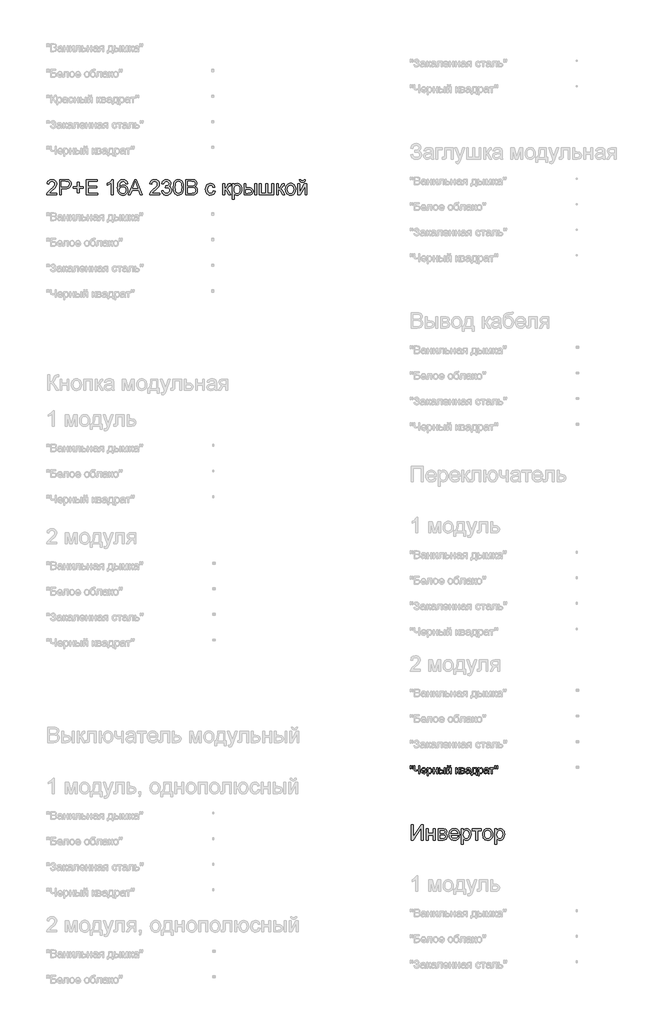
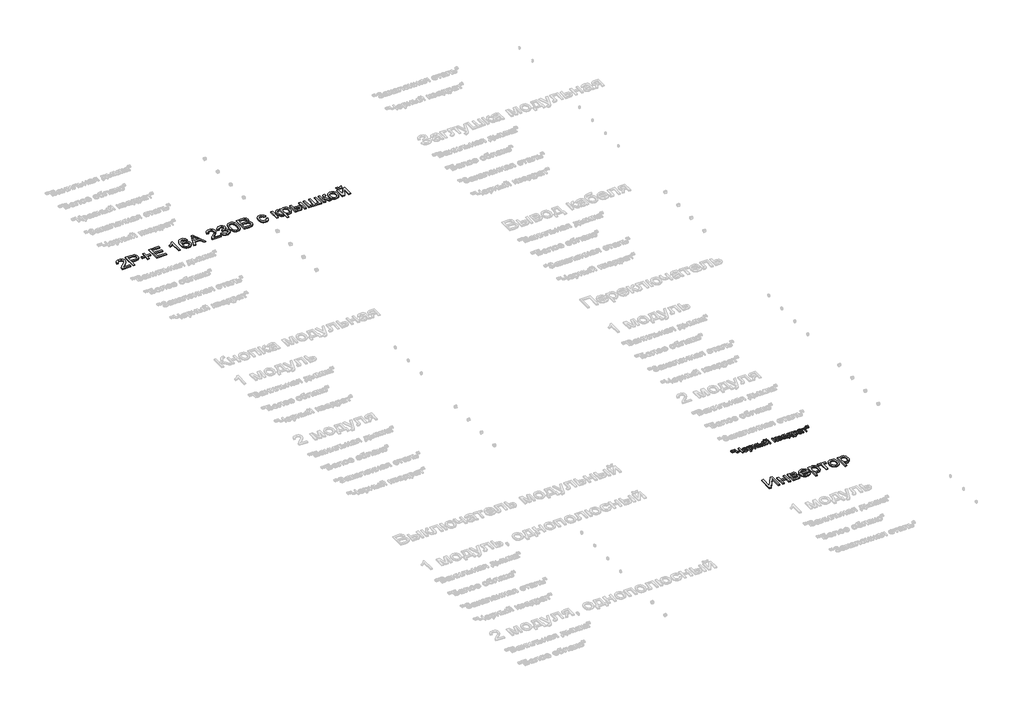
# One storey, part 50 of 168: 3 proxies.
"""IFC4 building model written with IfcOpenShell, lengths in millimetres."""

from ifc_helpers import new_model, si_unit, origin, origin_with_axes, place, context, project, spatial, polyline, outline, extrude, element, save

model = new_model("IFC4")

# Units and contexts
model_context = context("Model", 3, world=origin())
ifc_project = project(units=[si_unit("LENGTHUNIT", "METRE", prefix="MILLI")], contexts=[model_context])

# Site, building, storey
site = spatial("IfcSite", under=ifc_project)
building = spatial("IfcBuilding", under=site)
storey = spatial("IfcBuildingStorey", under=building, Name="Этаж 01", Elevation=0.0)

# Proxies
placement = place(None, origin())
element("IfcBuildingElementProxy", 1, Name="300 мм Arial 2", ObjectType="300 мм Arial 2", at=placement, inside=storey, context=model_context, shape_type="SweptSolid", body=[
    extrude(outline(polyline([(42178.0323041, -34929.1911814), (42178.0323041, -34966.8622977), (41980.2589435, -34966.8622977), (41984.3056455, -34940.8898289), (41993.5946658, -34920.5919398), (42007.1879056, -34900.901056), (42026.8511982, -34880.2904672), (42054.3503773, -34857.2334632), (42095.0013378, -34821.1258453), (42119.3919141, -34794.4727948), (42131.5872022, -34772.8413335), (42135.6522983, -34751.7984834), (42131.8171285, -34732.9353341), (42120.3116191, -34717.254364), (42102.6256922, -34706.6869537), (42080.2492698, -34703.1644836), (42056.7508074, -34706.6041802), (42038.4946633, -34716.9232702), (42026.7132424, -34733.3124131), (42022.6389493, -34754.9622685), (41984.967833, -34750.253379), (41994.1005036, -34713.8146674), (42002.6468622, -34699.27873), (42013.8465697, -34687.198405), (42027.4421086, -34677.702451), (42043.1759617, -34670.9196267), (42081.0586102, -34665.4933673), (42101.2484339, -34667.0016835), (42119.2171701, -34671.526632), (42134.9648188, -34679.0682129), (42148.4913799, -34689.6264262), (42159.3553951, -34702.4195226), (42167.1154059, -34716.6657528), (42171.7714124, -34732.365117), (42173.3234146, -34749.517615), (42171.6495515, -34767.5346357), (42166.6279623, -34785.2389567), (42157.7160209, -34803.2467804), (42144.3711016, -34822.174309), (42123.0983252, -34844.7714606), (42090.4028129, -34873.788153), (42047.0663138, -34910.0245295), (42030.0701657, -34929.1911814), (42178.0323041, -34929.1911814)])), origin_with_axes(), (0.0, 0.0, 1.0), 20.0),
    extrude(outline(polyline([(42229.830089, -34966.8622977), (42229.830089, -34665.4933673), (42341.5190628, -34665.4933673), (42386.547819, -34668.3628468), (42406.6249789, -34673.7247269), (42423.1520775, -34682.4527273), (42436.4602087, -34694.942321), (42446.8804662, -34711.5889813), (42453.6127067, -34731.2246828), (42455.8567869, -34752.6814001), (42454.3415729, -34771.181266), (42449.795931, -34788.2004068), (42442.2198612, -34803.7388225), (42431.6133634, -34817.7965133), (42417.0521342, -34829.4491755), (42397.61187, -34837.7725056), (42373.2925708, -34842.7665037), (42344.0942367, -34844.4311697), (42267.5012053, -34844.4311697), (42267.5012053, -34966.8622977), (42229.830089, -34966.8622977)]), holes=[polyline([(42267.5012053, -34806.7600534), (42346.3015287, -34806.7600534), (42379.7052139, -34803.3019627), (42401.7781336, -34792.9276904), (42414.0837863, -34776.2810301), (42418.1856706, -34754.0057753), (42415.7668464, -34737.0832035), (42408.5103741, -34722.8093821), (42397.3175644, -34712.0672279), (42383.0897282, -34705.7396576), (42345.4186119, -34703.1644836), (42267.5012053, -34703.1644836), (42267.5012053, -34806.7600534)])]), origin_with_axes(), (0.0, 0.0, 1.0), 20.0),
    extrude(outline(polyline([(42578.2879149, -34919.7734024), (42578.2879149, -34839.7222802), (42498.2367927, -34839.7222802), (42498.2367927, -34802.0511639), (42578.2879149, -34802.0511639), (42578.2879149, -34722.0000417), (42615.9590312, -34722.0000417), (42615.9590312, -34802.0511639), (42696.0101533, -34802.0511639), (42696.0101533, -34839.7222802), (42615.9590312, -34839.7222802), (42615.9590312, -34919.7734024), (42578.2879149, -34919.7734024)])), origin_with_axes(), (0.0, 0.0, 1.0), 20.0),
    extrude(outline(polyline([(42752.5168278, -34966.8622977), (42752.5168278, -34665.4933673), (42969.1257465, -34665.4933673), (42969.1257465, -34703.1644836), (42790.1879441, -34703.1644836), (42790.1879441, -34792.6333848), (42959.7079675, -34792.6333848), (42959.7079675, -34830.3045011), (42790.1879441, -34830.3045011), (42790.1879441, -34929.1911814), (42973.8346361, -34929.1911814), (42973.8346361, -34966.8622977), (42752.5168278, -34966.8622977)])), origin_with_axes(), (0.0, 0.0, 1.0), 20.0),
    extrude(outline(polyline([(43275.2035665, -34966.8622977), (43237.5324502, -34966.8622977), (43237.5324502, -34732.006432), (43201.8478967, -34757.4270779), (43162.1902176, -34776.446577), (43162.1902176, -34740.8355999), (43191.7771271, -34724.7407626), (43217.4093051, -34705.5925048), (43237.6152237, -34685.2302363), (43250.9233548, -34665.4933673), (43275.2035665, -34665.4933673), (43275.2035665, -34966.8622977)])), origin_with_axes(), (0.0, 0.0, 1.0), 20.0),
    extrude(outline(polyline([(43557.7369388, -34745.5444894), (43520.0658225, -34750.253379), (43513.9957696, -34731.5833677), (43505.7920011, -34718.8362566), (43488.7038824, -34707.0824268), (43468.0473084, -34703.1644836), (43450.5361254, -34705.445352), (43434.055012, -34712.2879571), (43419.9007523, -34726.6997342), (43408.3400606, -34746.5377708), (43400.5317652, -34774.59797), (43397.6346945, -34813.6762349), (43412.7454475, -34796.0454903), (43430.8544387, -34783.6202759), (43450.9499927, -34776.253439), (43472.0204339, -34773.7978267), (43490.1202281, -34775.4762883), (43506.8220707, -34780.5116731), (43522.1259617, -34788.9039811), (43536.0319011, -34800.6532123), (43547.5879943, -34815.0603909), (43555.8423465, -34831.4265412), (43560.7949579, -34849.7516631), (43562.4458284, -34870.0357566), (43559.3372255, -34897.0107039), (43550.0114169, -34922.0174825), (43535.2409548, -34943.2258795), (43515.7983914, -34958.805682), (43492.5666434, -34968.379811), (43466.4286276, -34971.5711873), (43443.9717311, -34969.4558658), (43423.6899368, -34963.1099014), (43405.5832449, -34952.533294), (43389.6516552, -34937.7260437), (43376.6631215, -34918.0627511), (43367.3855975, -34892.9180167), (43361.819083, -34862.2918406), (43359.9635782, -34826.1842228), (43362.0237174, -34785.7034077), (43368.2041349, -34751.1546899), (43378.5048308, -34722.5380692), (43392.925805, -34699.8535456), (43408.5561913, -34684.8209676), (43426.678978, -34674.0834119), (43447.2941653, -34667.6408784), (43470.4017532, -34665.4933673), (43503.4559504, -34670.8092621), (43529.92506, -34686.7569466), (43548.4663125, -34712.085622), (43557.7369388, -34745.5444894)]), holes=[polyline([(43397.6346945, -34869.4471454), (43399.8143953, -34886.1397909), (43406.3534978, -34902.0782784), (43416.5070409, -34915.7818827), (43429.5300635, -34925.7698789), (43445.2478217, -34931.8675229), (43463.4855717, -34933.900071), (43488.3451975, -34929.6878221), (43507.8889285, -34917.0510756), (43520.5532662, -34897.1854478), (43524.7747121, -34871.2865554), (43520.6084485, -34846.4269296), (43508.1096577, -34827.4718098), (43488.2348329, -34815.4696597), (43461.9404673, -34811.468943), (43437.1176297, -34815.4696597), (43416.3598881, -34827.4718098), (43402.3159929, -34845.9670771), (43397.6346945, -34869.4471454)])]), origin_with_axes(), (0.0, 0.0, 1.0), 20.0),
    extrude(outline(polyline([(43574.4387814, -34966.8622977), (43694.7361938, -34665.4933673), (43726.8155038, -34665.4933673), (43847.1129162, -34966.8622977), (43807.3080844, -34966.8622977), (43772.8007532, -34872.684507), (43648.677368, -34872.684507), (43614.2436133, -34966.8622977), (43574.4387814, -34966.8622977)]), holes=[polyline([(43662.509731, -34835.0133907), (43759.0419666, -34835.0133907), (43731.8922753, -34760.9219568), (43710.7758488, -34703.1644836), (43692.0138671, -34754.4472337), (43662.509731, -34835.0133907)])]), origin_with_axes(), (0.0, 0.0, 1.0), 20.0),
    extrude(outline(polyline([(44184.0192474, -34929.1911814), (44184.0192474, -34966.8622977), (43986.2458868, -34966.8622977), (43990.2925888, -34940.8898289), (43999.5816091, -34920.5919398), (44013.1748489, -34900.901056), (44032.8381415, -34880.2904672), (44060.3373206, -34857.2334632), (44100.9882811, -34821.1258453), (44125.3788574, -34794.4727948), (44137.5741455, -34772.8413335), (44141.6392416, -34751.7984834), (44137.8040718, -34732.9353341), (44126.2985624, -34717.254364), (44108.6126355, -34706.6869537), (44086.2362131, -34703.1644836), (44062.7377507, -34706.6041802), (44044.4816066, -34716.9232702), (44032.7001857, -34733.3124131), (44028.6258926, -34754.9622685), (43990.9547763, -34750.253379), (44000.0874469, -34713.8146674), (44008.6338055, -34699.27873), (44019.833513, -34687.198405), (44033.4290519, -34677.702451), (44049.162905, -34670.9196267), (44087.0455535, -34665.4933673), (44107.2353772, -34667.0016835), (44125.2041134, -34671.526632), (44140.9517621, -34679.0682129), (44154.4783232, -34689.6264262), (44165.3423384, -34702.4195226), (44173.1023492, -34716.6657528), (44177.7583557, -34732.365117), (44179.3103579, -34749.517615), (44177.6364948, -34767.5346357), (44172.6149056, -34785.2389567), (44163.7029642, -34803.2467804), (44150.3580449, -34822.174309), (44129.0852685, -34844.7714606), (44096.3897562, -34873.788153), (44053.0532571, -34910.0245295), (44036.057109, -34929.1911814), (44184.0192474, -34929.1911814)])), origin_with_axes(), (0.0, 0.0, 1.0), 20.0),
    extrude(outline(polyline([(44221.6903637, -34886.8111756), (44259.36148, -34882.102286), (44267.7951748, -34905.7754924), (44280.1468128, -34921.7599651), (44297.0233993, -34930.8650445), (44319.0319396, -34933.900071), (44344.8572557, -34929.7246103), (44364.7964598, -34917.1982284), (44377.543571, -34898.509823), (44381.792608, -34875.8482921), (44377.5803592, -34854.3363925), (44364.9436126, -34836.8895888), (44345.8137489, -34825.3288971), (44322.1221484, -34821.4753332), (44295.7082211, -34825.5956116), (44299.9020759, -34787.9244953), (44305.9353406, -34788.3659537), (44328.504901, -34785.662021), (44348.6832285, -34777.550223), (44362.9202617, -34763.8282246), (44367.6659394, -34744.2936907), (44364.2262427, -34728.0241094), (44353.9071528, -34714.8263428), (44338.1618034, -34706.0799484), (44318.4433284, -34703.1644836), (44298.6880653, -34706.1075396), (44282.5380457, -34714.9367074), (44270.7474278, -34729.6519872), (44264.0703696, -34750.253379), (44226.3992533, -34745.5444894), (44237.4908954, -34711.71774), (44257.2277645, -34686.462641), (44284.2303029, -34670.7356857), (44317.1189533, -34665.4933673), (44340.8013567, -34668.0777383), (44362.5523797, -34675.8308513), (44380.8912971, -34688.0629277), (44394.3373841, -34704.0841886), (44402.5871378, -34722.5426677), (44405.3370557, -34742.0863987), (44402.7250935, -34760.2965574), (44394.889207, -34776.814459), (44381.9397608, -34790.8859453), (44363.9871195, -34801.7568583), (44387.5683553, -34811.285002), (44405.0427501, -34827.508598), (44415.8584808, -34849.5447295), (44419.4637243, -34876.5104797), (44417.6611025, -34895.6219494), (44412.2532372, -34913.2251028), (44403.2401283, -34929.3199401), (44390.6217759, -34943.9064612), (44375.248907, -34956.0097789), (44357.9722488, -34964.6550058), (44338.7918013, -34969.8421419), (44317.7075645, -34971.5711873), (44298.6512771, -34970.0950608), (44281.2872469, -34965.6666812), (44265.6154739, -34958.2860487), (44251.6359581, -34947.9531632), (44239.9143181, -34935.2750299), (44231.0161723, -34920.8586542), (44224.9415209, -34904.7040361), (44221.6903637, -34886.8111756)])), origin_with_axes(), (0.0, 0.0, 1.0), 20.0),
    extrude(outline(polyline([(44452.4259511, -34818.6058537), (44455.1942631, -34770.3673271), (44463.4991991, -34731.8960674), (44477.2579858, -34702.6034635), (44496.3878495, -34681.9009043), (44521.0267461, -34669.5952515), (44551.3126314, -34665.4933673), (44574.5259853, -34667.9213885), (44595.311318, -34675.205452), (44612.6937423, -34687.0604493), (44625.6983708, -34703.2012718), (44635.5208201, -34723.4899638), (44643.3567066, -34747.7885696), (44648.4886604, -34778.644672), (44650.1993117, -34818.6058537), (44647.4585908, -34866.5684688), (44639.2364282, -34904.9477579), (44625.5604151, -34934.267953), (44606.4581425, -34955.0532857), (44581.7640635, -34967.4417119), (44551.3126314, -34971.5711873), (44530.5640869, -34969.7777625), (44512.1699871, -34964.3974884), (44496.1303321, -34955.4303647), (44482.4451219, -34942.8763916), (44469.3117347, -34920.1826711), (44459.9307438, -34891.9063412), (44454.3021493, -34858.0474021), (44452.4259511, -34818.6058537)]), holes=[polyline([(44490.0970674, -34818.5322773), (44494.5116513, -34877.7888697), (44500.0298813, -34898.0568683), (44507.7554032, -34912.0846687), (44527.4738781, -34928.4462204), (44551.3126314, -34933.900071), (44575.1513847, -34928.4278263), (44594.8698596, -34912.0110923), (44602.5953815, -34897.9602993), (44608.1136115, -34877.6968992), (44612.5281954, -34818.5322773), (44608.2607642, -34760.6092571), (44602.9264753, -34740.4079371), (44595.4584708, -34726.0467437), (44575.7767841, -34708.8850486), (44550.871173, -34703.1644836), (44527.2899371, -34708.2044669), (44508.3440144, -34723.3244169), (44500.3609751, -34738.9594017), (44494.6588041, -34760.03904), (44490.0970674, -34818.5322773)])]), origin_with_axes(), (0.0, 0.0, 1.0), 20.0),
    extrude(outline(polyline([(44697.2882071, -34966.8622977), (44697.2882071, -34665.4933673), (44812.2881188, -34665.4933673), (44843.9167733, -34667.7098563), (44868.6108522, -34674.3593234), (44887.5383809, -34685.6073154), (44901.8673846, -34701.6193792), (44910.8896905, -34720.4549374), (44913.8971258, -34740.1734123), (44911.3679371, -34758.3191917), (44903.780371, -34775.3797192), (44891.0792451, -34790.3065312), (44873.2093772, -34802.0511639), (44894.5557299, -34813.1979883), (44910.3286705, -34830.1573483), (44920.0683463, -34851.8072037), (44923.3149049, -34877.0255145), (44921.0984159, -34898.0407735), (44914.4489488, -34917.5293222), (44904.525332, -34934.1024061), (44892.4863937, -34946.3712706), (44877.7435228, -34955.2556208), (44859.708108, -34961.6751616), (44811.405202, -34966.8622977), (44697.2882071, -34966.8622977)]), holes=[polyline([(44734.9593234, -34787.9244953), (44803.7532565, -34787.9244953), (44843.9259704, -34784.6871337), (44857.9882596, -34779.1045244), (44868.0958174, -34770.7444061), (44874.1934615, -34759.7355374), (44876.2260095, -34746.206677), (44874.3314173, -34733.0732898), (44868.6476404, -34721.6321597), (44859.4321965, -34712.7018243), (44846.9426027, -34707.1008209), (44798.5293322, -34703.1644836), (44734.9593234, -34703.1644836), (44734.9593234, -34787.9244953)]), polyline([(44734.9593234, -34929.1911814), (44812.2145424, -34929.1911814), (44840.173574, -34927.7196534), (44863.8283863, -34919.515885), (44879.5001593, -34902.7772542), (44884.1078813, -34890.949848), (44885.6437886, -34877.3933965), (44883.8411668, -34861.6480471), (44878.4333015, -34848.1099897), (44868.9879313, -34837.5241853), (44855.0727948, -34830.6355949), (44835.3635169, -34826.8556074), (44808.5357224, -34825.5956116), (44734.9593234, -34825.5956116), (44734.9593234, -34929.1911814)])]), origin_with_axes(), (0.0, 0.0, 1.0), 20.0),
    extrude(outline(polyline([(45229.3927249, -34886.8111756), (45267.0638412, -34891.5200651), (45256.5608102, -34925.0249178), (45236.8239412, -34950.3443962), (45209.7110382, -34966.2644895), (45177.0799052, -34971.5711873), (45155.9519824, -34969.720281), (45137.0083589, -34964.1675621), (45120.2490347, -34954.9130307), (45105.6740099, -34941.9566867), (45093.8764942, -34925.5422519), (45085.4496972, -34905.9134482), (45080.3936191, -34883.0702755), (45078.7082597, -34857.012734), (45081.5869363, -34823.4894872), (45090.2229661, -34794.4360066), (45104.7543049, -34770.9743324), (45125.3189085, -34754.2265045), (45149.9210169, -34744.1833261), (45176.5648704, -34740.8355999), (45208.39586, -34745.4341248), (45233.844097, -34759.2296997), (45252.1002411, -34781.4865604), (45262.3549517, -34811.468943), (45224.6838354, -34816.1778325), (45217.8504273, -34799.7427044), (45207.2094406, -34787.9612835), (45193.3494864, -34780.870358), (45176.859176, -34778.5067162), (45152.514585, -34783.1604234), (45133.1915832, -34797.1215452), (45120.5824278, -34821.1442394), (45116.379376, -34855.9826644), (45120.4904573, -34891.2901389), (45132.8237012, -34915.3956066), (45151.7972151, -34929.2739549), (45175.8291064, -34933.900071), (45195.3360492, -34931.0121973), (45211.3297189, -34922.3485763), (45222.963987, -34907.6884788), (45229.3927249, -34886.8111756)])), origin_with_axes(), (0.0, 0.0, 1.0), 20.0),
    extrude(outline(polyline([(45417.7483064, -34745.5444894), (45455.4194227, -34745.5444894), (45455.4194227, -34839.7222802), (45470.7417078, -34838.030023), (45480.6561276, -34832.9532515), (45489.4301132, -34819.7094997), (45501.3310957, -34793.5163016), (45518.5111849, -34759.4872171), (45533.6679231, -34748.413969), (45561.2222846, -34745.5444894), (45568.4327717, -34745.5444894), (45568.4327717, -34783.4363349), (45558.2792286, -34783.2156057), (45539.8851288, -34787.1887313), (45526.9356826, -34811.9839778), (45511.7421562, -34838.8025752), (45490.4417887, -34851.9359624), (45502.3795594, -34857.2380617), (45514.2069656, -34866.5960599), (45537.5306841, -34897.4797534), (45577.8505507, -34966.8622977), (45535.0290865, -34966.8622977), (45495.5185602, -34898.9512814), (45475.6529325, -34870.2196976), (45466.3639121, -34865.0049703), (45455.4194227, -34863.2667279), (45455.4194227, -34966.8622977), (45417.7483064, -34966.8622977), (45417.7483064, -34745.5444894)])), origin_with_axes(), (0.0, 0.0, 1.0), 20.0),
    extrude(outline(polyline([(45601.3949984, -35051.6223094), (45601.3949984, -34745.5444894), (45639.0661147, -34745.5444894), (45639.0661147, -34782.4798418), (45651.3533734, -34764.2604859), (45665.11216, -34751.2466604), (45681.151815, -34743.438365), (45700.2816787, -34740.8355999), (45725.7575069, -34744.4776316), (45748.0327617, -34755.4037269), (45766.1693441, -34772.9516981), (45779.2291549, -34796.4593576), (45787.1202237, -34824.2160541), (45789.75058, -34854.5111364), (45786.7799328, -34886.7284021), (45777.8679915, -34915.5427594), (45763.2998645, -34939.4918773), (45743.3606604, -34957.1134249), (45720.1381094, -34967.9567467), (45695.719942, -34971.5711873), (45678.4018971, -34969.1523632), (45662.9416562, -34961.8958908), (45649.7071014, -34950.9422044), (45639.0661147, -34937.4317381), (45639.0661147, -35051.6223094), (45601.3949984, -35051.6223094)]), holes=[polyline([(45639.0661147, -34857.9692272), (45643.1404078, -34891.7407943), (45655.3632871, -34915.3588184), (45673.3987019, -34929.2647578), (45694.9106016, -34933.900071), (45716.7719892, -34929.0992109), (45735.2672565, -34914.6966308), (45747.8764119, -34890.214084), (45752.0794637, -34855.173324), (45747.9775794, -34821.5856978), (45735.6719267, -34797.63658), (45717.664103, -34783.2891821), (45696.455706, -34778.5067162), (45675.1645355, -34783.5926848), (45656.4669331, -34798.8505905), (45643.4163193, -34823.8021869), (45639.0661147, -34857.9692272)])]), origin_with_axes(), (0.0, 0.0, 1.0), 20.0),
    extrude(outline(polyline([(46039.3217255, -34745.5444894), (46076.9928418, -34745.5444894), (46076.9928418, -34966.8622977), (46039.3217255, -34966.8622977), (46039.3217255, -34745.5444894)])), origin_with_axes(), (0.0, 0.0, 1.0), 20.0),
    extrude(outline(polyline([(45832.1305858, -34745.5444894), (45869.8017021, -34745.5444894), (45869.8017021, -34825.5956116), (45916.3755627, -34825.5956116), (45956.63105, -34830.3136982), (45972.8477482, -34836.2113064), (45986.4570828, -34844.4679579), (45997.2245289, -34854.7985442), (46004.9155619, -34866.9179567), (46009.5301817, -34880.8261954), (46011.0683883, -34896.5232603), (46005.9088433, -34923.4798135), (45990.4302083, -34946.2241178), (45978.5683132, -34955.2533215), (45963.6208079, -34961.7027528), (45924.4689666, -34966.8622977), (45832.1305858, -34966.8622977), (45832.1305858, -34745.5444894)]), holes=[polyline([(45869.8017021, -34929.1911814), (45908.502888, -34929.1911814), (45938.5036647, -34927.2138157), (45958.4612629, -34921.2817185), (45969.6632697, -34911.1557666), (45973.397272, -34896.5968367), (45970.6289599, -34884.2911839), (45962.3240239, -34873.420271), (45944.5645206, -34865.8051137), (45913.4325067, -34863.2667279), (45869.8017021, -34863.2667279), (45869.8017021, -34929.1911814)])]), origin_with_axes(), (0.0, 0.0, 1.0), 20.0),
    extrude(outline(polyline([(46133.4995163, -34745.5444894), (46171.1706326, -34745.5444894), (46171.1706326, -34929.1911814), (46255.9306442, -34929.1911814), (46255.9306442, -34745.5444894), (46293.6017606, -34745.5444894), (46293.6017606, -34929.1911814), (46378.3617722, -34929.1911814), (46378.3617722, -34745.5444894), (46416.0328885, -34745.5444894), (46416.0328885, -34966.8622977), (46133.4995163, -34966.8622977), (46133.4995163, -34745.5444894)])), origin_with_axes(), (0.0, 0.0, 1.0), 20.0),
    extrude(outline(polyline([(46467.8306735, -34745.5444894), (46505.5017898, -34745.5444894), (46505.5017898, -34839.7222802), (46520.8240749, -34838.030023), (46530.7384946, -34832.9532515), (46539.5124802, -34819.7094997), (46551.4134628, -34793.5163016), (46568.5935519, -34759.4872171), (46583.7502901, -34748.413969), (46611.3046516, -34745.5444894), (46618.5151387, -34745.5444894), (46618.5151387, -34783.4363349), (46608.3615956, -34783.2156057), (46589.9674959, -34787.1887313), (46577.0180496, -34811.9839778), (46561.8245232, -34838.8025752), (46540.5241557, -34851.9359624), (46552.4619265, -34857.2380617), (46564.2893326, -34866.5960599), (46587.6130511, -34897.4797534), (46627.9329178, -34966.8622977), (46585.1114535, -34966.8622977), (46545.6009272, -34898.9512814), (46525.7352995, -34870.2196976), (46516.4462791, -34865.0049703), (46505.5017898, -34863.2667279), (46505.5017898, -34966.8622977), (46467.8306735, -34966.8622977), (46467.8306735, -34745.5444894)])), origin_with_axes(), (0.0, 0.0, 1.0), 20.0),
    extrude(outline(polyline([(46642.0595864, -34856.2033936), (46644.0967329, -34827.5407876), (46650.2081726, -34802.8421102), (46660.3939053, -34782.1073612), (46674.6539312, -34765.3365408), (46689.010526, -34754.6173791), (46704.857043, -34746.9608351), (46722.193482, -34742.3669087), (46741.0198431, -34740.8355999), (46761.8028766, -34742.7003018), (46780.5947487, -34748.2944073), (46797.3954596, -34757.6179167), (46812.2050092, -34770.6708297), (46824.292232, -34787.0116881), (46832.9259625, -34806.1990334), (46838.1062009, -34828.2328656), (46839.832947, -34853.1131848), (46836.7795264, -34891.1705772), (46827.6192648, -34920.1412843), (46812.6188764, -34941.837125), (46792.0450758, -34958.069918), (46767.6085143, -34968.19587), (46741.0198431, -34971.5711873), (46719.933307, -34969.7133832), (46700.9666909, -34964.139971), (46684.1199947, -34954.8509506), (46669.3932186, -34941.8463221), (46657.4347545, -34925.3468146), (46648.8929944, -34905.5731573), (46643.7679384, -34882.5253503), (46642.0595864, -34856.2033936)]), holes=[polyline([(46679.7307027, -34856.1298172), (46684.0901043, -34890.2232811), (46697.1683093, -34914.5126898), (46716.849996, -34929.0532257), (46741.0198431, -34933.900071), (46765.0793256, -34929.0256345), (46784.7242241, -34914.4023252), (46797.802429, -34889.7910197), (46802.1618307, -34854.9525948), (46797.7748379, -34821.8524123), (46784.6138595, -34797.8940973), (46764.9413698, -34783.3535615), (46741.0198431, -34778.5067162), (46716.849996, -34783.3351674), (46697.1683093, -34797.820521), (46684.0901043, -34822.0547474), (46679.7307027, -34856.1298172)])]), origin_with_axes(), (0.0, 0.0, 1.0), 20.0),
    extrude(outline(polyline([(46882.2129528, -34745.5444894), (46919.8840691, -34745.5444894), (46919.8840691, -34914.3287488), (47012.4431791, -34745.5444894), (47061.1507553, -34745.5444894), (47061.1507553, -34966.8622977), (47023.479639, -34966.8622977), (47023.479639, -34799.1081079), (46931.5091402, -34966.8622977), (46882.2129528, -34966.8622977), (46882.2129528, -34745.5444894)])), origin_with_axes(), (0.0, 0.0, 1.0), 20.0),
    extrude(outline(polyline([(47004.6440808, -34665.4933673), (47032.8974181, -34665.4933673), (47026.8181681, -34689.6172291), (47014.6136829, -34707.3951265), (46996.8357855, -34718.3488129), (46974.0362988, -34722.0000417), (46949.2962347, -34718.3764041), (46930.1111886, -34707.5054911), (46916.9961955, -34689.7551849), (46910.4662901, -34665.4933673), (46938.7196273, -34665.4933673), (46942.6927528, -34677.9001876), (46949.3146288, -34686.7201584), (46958.6220432, -34691.990068), (46970.6517845, -34693.7467045), (46984.2266301, -34692.0452503), (46994.0490794, -34686.9408876), (47000.6709553, -34678.1760991), (47004.6440808, -34665.4933673)])), origin_with_axes(), (0.0, 0.0, 1.0), 20.0),
])
element("IfcBuildingElementProxy", 2, Name="300 мм Arial 2", ObjectType="300 мм Arial 2", at=placement, inside=storey, context=model_context, shape_type="SweptSolid", body=[
    extrude(outline(polyline([(49099.0945017, -47265.4933673), (49136.765618, -47265.4933673), (49136.765618, -47504.1752058), (49294.5134175, -47265.4933673), (49334.5389786, -47265.4933673), (49334.5389786, -47566.8622977), (49296.8678623, -47566.8622977), (49296.8678623, -47328.8426469), (49139.4879447, -47566.8622977), (49099.0945017, -47566.8622977), (49099.0945017, -47265.4933673)])), origin_with_axes(), (0.0, 0.0, 1.0), 20.0),
    extrude(outline(polyline([(49395.7545426, -47345.5444894), (49433.4256589, -47345.5444894), (49433.4256589, -47430.3045011), (49532.3123392, -47430.3045011), (49532.3123392, -47345.5444894), (49569.9834555, -47345.5444894), (49569.9834555, -47566.8622977), (49532.3123392, -47566.8622977), (49532.3123392, -47467.9756174), (49433.4256589, -47467.9756174), (49433.4256589, -47566.8622977), (49395.7545426, -47566.8622977), (49395.7545426, -47345.5444894)])), origin_with_axes(), (0.0, 0.0, 1.0), 20.0),
    extrude(outline(polyline([(49626.4901299, -47345.5444894), (49709.4843081, -47345.5444894), (49736.1649498, -47346.8044853), (49754.9913109, -47350.5844728), (49768.842068, -47357.7213835), (49780.5958977, -47369.0521489), (49788.6249223, -47383.813414), (49791.3012638, -47401.2418235), (49789.682583, -47415.2857187), (49784.8265407, -47427.3982334), (49776.7147427, -47437.6345499), (49765.3287949, -47446.0498505), (49779.2715225, -47453.87654), (49790.6390762, -47466.4673013), (49798.1990512, -47482.828853), (49800.7190429, -47501.9679138), (49794.3362902, -47530.6811035), (49779.1611579, -47550.8962191), (49755.1384637, -47562.8707781), (49722.2130251, -47566.8622977), (49626.4901299, -47566.8622977), (49626.4901299, -47345.5444894)]), holes=[polyline([(49664.1612462, -47430.3045011), (49701.3909042, -47430.3045011), (49732.1090508, -47428.3915147), (49747.0450598, -47420.7395692), (49751.9838755, -47414.4119989), (49753.6301475, -47406.9072062), (49750.7422738, -47395.6684113), (49742.0786528, -47388.4395301), (49726.4252739, -47384.5215868), (49702.5681265, -47383.2156057), (49664.1612462, -47383.2156057), (49664.1612462, -47430.3045011)]), polyline([(49664.1612462, -47529.1911814), (49710.3672248, -47529.1911814), (49735.5487474, -47527.4897272), (49751.3492791, -47522.3853645), (49759.8289591, -47513.1055412), (49763.0479266, -47498.877705), (49761.4384428, -47489.4507289), (49756.6099916, -47480.7411227), (49749.1971694, -47473.9261087), (49739.8345727, -47470.1829094), (49706.6884049, -47467.9756174), (49664.1612462, -47467.9756174), (49664.1612462, -47529.1911814)])]), origin_with_axes(), (0.0, 0.0, 1.0), 20.0),
    extrude(outline(polyline([(50002.7598346, -47500.9378442), (50039.6951869, -47505.6467337), (50026.3870558, -47533.4770067), (50005.1510676, -47554.2807335), (49976.465469, -47567.2485738), (49940.8085066, -47571.5711873), (49917.4342044, -47569.7064854), (49896.6074849, -47564.1123798), (49878.3283483, -47554.7888705), (49862.5967944, -47541.7359575), (49849.9462523, -47525.3169242), (49840.9101508, -47505.8950541), (49835.4884899, -47483.4703472), (49833.6812696, -47458.0428036), (49835.506884, -47431.7530365), (49840.9837272, -47408.5810693), (49850.1117992, -47388.526902), (49862.8911, -47371.5905347), (49878.5812671, -47358.1352507), (49896.441938, -47348.5243336), (49916.4731126, -47342.7577833), (49938.6747911, -47340.8355999), (49960.1613988, -47342.7531848), (49979.592466, -47348.5059395), (49996.9679924, -47358.093864), (50012.2879783, -47371.5169583), (50024.7936669, -47388.4165374), (50033.7263016, -47408.4339165), (50039.0858824, -47431.5690955), (50040.8724093, -47457.8220744), (50040.6516801, -47467.9756174), (49871.3523859, -47467.9756174), (49877.8730943, -47496.1737724), (49893.0206354, -47516.9039228), (49914.882023, -47529.6510339), (49941.5442706, -47533.900071), (49961.5938393, -47531.9319023), (49978.4796229, -47526.0273963), (49992.2016213, -47515.8186709), (50002.7598346, -47500.9378442)]), holes=[polyline([(49871.3523859, -47430.3045011), (50003.201293, -47430.3045011), (49998.1061274, -47410.4020852), (49988.1181312, -47396.165052), (49966.1555761, -47382.9213001), (49938.5276383, -47378.5067162), (49913.1345835, -47382.0291863), (49892.1377187, -47392.5965966), (49877.5420005, -47409.068513), (49871.3523859, -47430.3045011)])]), origin_with_axes(), (0.0, 0.0, 1.0), 20.0),
    extrude(outline(polyline([(50078.5435256, -47651.6223094), (50078.5435256, -47345.5444894), (50116.2146419, -47345.5444894), (50116.2146419, -47382.4798418), (50128.5019006, -47364.2604859), (50142.2606872, -47351.2466604), (50158.3003422, -47343.438365), (50177.4302059, -47340.8355999), (50202.9060341, -47344.4776316), (50225.1812889, -47355.4037269), (50243.3178713, -47372.9516981), (50256.3776821, -47396.4593576), (50264.2687509, -47424.2160541), (50266.8991071, -47454.5111364), (50263.92846, -47486.7284021), (50255.0165187, -47515.5427594), (50240.4483917, -47539.4918773), (50220.5091876, -47557.1134249), (50197.2866366, -47567.9567467), (50172.8684692, -47571.5711873), (50155.5504243, -47569.1523632), (50140.0901834, -47561.8958908), (50126.8556286, -47550.9422044), (50116.2146419, -47537.4317381), (50116.2146419, -47651.6223094), (50078.5435256, -47651.6223094)]), holes=[polyline([(50116.2146419, -47457.9692272), (50120.288935, -47491.7407943), (50132.5118143, -47515.3588184), (50150.5472291, -47529.2647578), (50172.0591288, -47533.900071), (50193.9205164, -47529.0992109), (50212.4157837, -47514.6966308), (50225.024939, -47490.214084), (50229.2279908, -47455.173324), (50225.1261066, -47421.5856978), (50212.8204539, -47397.63658), (50194.8126302, -47383.2891821), (50173.6042332, -47378.5067162), (50152.3130627, -47383.5926848), (50133.6154603, -47398.8505905), (50120.5648465, -47423.8021869), (50116.2146419, -47457.9692272)])]), origin_with_axes(), (0.0, 0.0, 1.0), 20.0),
    extrude(outline(polyline([(50290.4435548, -47345.5444894), (50469.3813573, -47345.5444894), (50469.3813573, -47383.2156057), (50398.7480142, -47383.2156057), (50398.7480142, -47566.8622977), (50361.0768979, -47566.8622977), (50361.0768979, -47383.2156057), (50290.4435548, -47383.2156057), (50290.4435548, -47345.5444894)])), origin_with_axes(), (0.0, 0.0, 1.0), 20.0),
    extrude(outline(polyline([(50492.925805, -47456.2033936), (50494.9629515, -47427.5407876), (50501.0743912, -47402.8421102), (50511.2601239, -47382.1073612), (50525.5201498, -47365.3365408), (50539.8767446, -47354.6173791), (50555.7232616, -47346.9608351), (50573.0597006, -47342.3669087), (50591.8860617, -47340.8355999), (50612.6690952, -47342.7003018), (50631.4609673, -47348.2944073), (50648.2616782, -47357.6179167), (50663.0712278, -47370.6708297), (50675.1584506, -47387.0116881), (50683.7921811, -47406.1990334), (50688.9724195, -47428.2328656), (50690.6991656, -47453.1131848), (50687.645745, -47491.1705772), (50678.4854834, -47520.1412843), (50663.485095, -47541.837125), (50642.9112944, -47558.069918), (50618.4747329, -47568.19587), (50591.8860617, -47571.5711873), (50570.7995256, -47569.7133832), (50551.8329095, -47564.139971), (50534.9862133, -47554.8509506), (50520.2594372, -47541.8463221), (50508.3009731, -47525.3468146), (50499.759213, -47505.5731573), (50494.634157, -47482.5253503), (50492.925805, -47456.2033936)]), holes=[polyline([(50530.5969213, -47456.1298172), (50534.9563229, -47490.2232811), (50548.0345279, -47514.5126898), (50567.7162146, -47529.0532257), (50591.8860617, -47533.900071), (50615.9455442, -47529.0256345), (50635.5904427, -47514.4023252), (50648.6686476, -47489.7910197), (50653.0280493, -47454.9525948), (50648.6410565, -47421.8524123), (50635.4800781, -47397.8940973), (50615.8075884, -47383.3535615), (50591.8860617, -47378.5067162), (50567.7162146, -47383.3351674), (50548.0345279, -47397.820521), (50534.9563229, -47422.0547474), (50530.5969213, -47456.1298172)])]), origin_with_axes(), (0.0, 0.0, 1.0), 20.0),
    extrude(outline(polyline([(50733.0791714, -47651.6223094), (50733.0791714, -47345.5444894), (50770.7502877, -47345.5444894), (50770.7502877, -47382.4798418), (50783.0375464, -47364.2604859), (50796.796333, -47351.2466604), (50812.835988, -47343.438365), (50831.9658517, -47340.8355999), (50857.4416799, -47344.4776316), (50879.7169347, -47355.4037269), (50897.8535171, -47372.9516981), (50910.9133279, -47396.4593576), (50918.8043967, -47424.2160541), (50921.434753, -47454.5111364), (50918.4641059, -47486.7284021), (50909.5521645, -47515.5427594), (50894.9840375, -47539.4918773), (50875.0448334, -47557.1134249), (50851.8222824, -47567.9567467), (50827.404115, -47571.5711873), (50810.0860701, -47569.1523632), (50794.6258292, -47561.8958908), (50781.3912745, -47550.9422044), (50770.7502877, -47537.4317381), (50770.7502877, -47651.6223094), (50733.0791714, -47651.6223094)]), holes=[polyline([(50770.7502877, -47457.9692272), (50774.8245808, -47491.7407943), (50787.0474601, -47515.3588184), (50805.0828749, -47529.2647578), (50826.5947746, -47533.900071), (50848.4561622, -47529.0992109), (50866.9514295, -47514.6966308), (50879.5605849, -47490.214084), (50883.7636367, -47455.173324), (50879.6617524, -47421.5856978), (50867.3560997, -47397.63658), (50849.348276, -47383.2891821), (50828.139879, -47378.5067162), (50806.8487085, -47383.5926848), (50788.1511061, -47398.8505905), (50775.1004923, -47423.8021869), (50770.7502877, -47457.9692272)])]), origin_with_axes(), (0.0, 0.0, 1.0), 20.0),
])
element("IfcBuildingElementProxy", 3, Name="150", ObjectType="150", at=placement, inside=storey, context=model_context, shape_type="SweptSolid", body=[
    extrude(outline(polyline([(49080.1485789, -46170.3300622), (49075.550054, -46141.2305964), (49075.550054, -46116.1778325), (49094.3856121, -46116.1778325), (49094.3856121, -46141.2305964), (49090.2653338, -46170.3300622), (49080.1485789, -46170.3300622)])), origin_with_axes(), (0.0, 0.0, 1.0), 20.0),
    extrude(outline(polyline([(49117.7093306, -46170.3300622), (49113.2211703, -46141.2305964), (49113.2211703, -46116.1778325), (49132.0567284, -46116.1778325), (49132.0567284, -46141.2305964), (49127.6421445, -46170.3300622), (49117.7093306, -46170.3300622)])), origin_with_axes(), (0.0, 0.0, 1.0), 20.0),
    extrude(outline(polyline([(49263.9056355, -46266.8622977), (49245.0700773, -46266.8622977), (49245.0700773, -46206.5296505), (49220.0908899, -46214.6966308), (49198.4226404, -46217.4189576), (49183.7395502, -46215.556555), (49170.886673, -46209.9693472), (49160.926268, -46201.5172583), (49154.9205944, -46191.0602126), (49150.8922866, -46161.0594359), (49150.8922866, -46116.1778325), (49169.7278447, -46116.1778325), (49169.7278447, -46158.5210502), (49171.990319, -46178.8879171), (49178.7777418, -46190.8394834), (49188.7381468, -46196.6474204), (49200.5195677, -46198.5833994), (49222.2521966, -46196.2473488), (49245.0700773, -46189.2391968), (49245.0700773, -46116.1778325), (49263.9056355, -46116.1778325), (49263.9056355, -46266.8622977)])), origin_with_axes(), (0.0, 0.0, 1.0), 20.0),
    extrude(outline(polyline([(49371.9893657, -46233.900071), (49390.4570418, -46236.2545157), (49383.8029762, -46250.1696522), (49373.1849822, -46260.5715156), (49358.8421829, -46267.0554358), (49341.0137017, -46269.2167425), (49318.9131908, -46265.4873388), (49301.9078456, -46254.2991276), (49291.0645238, -46236.3786759), (49287.4500832, -46212.4525506), (49291.101312, -46187.7216835), (49302.0549984, -46169.2264162), (49318.8304174, -46157.6933157), (49339.9468439, -46153.8489488), (49360.4056814, -46157.6841186), (49376.7534375, -46169.189628), (49387.4725992, -46187.6481071), (49391.045653, -46212.342186), (49390.9352884, -46217.4189576), (49306.2856413, -46217.4189576), (49309.5459955, -46231.518035), (49317.1197661, -46241.8831103), (49328.0504599, -46248.2566658), (49341.3815837, -46250.3811843), (49359.8492598, -46246.444847), (49371.9893657, -46233.900071)]), holes=[polyline([(49306.2856413, -46198.5833994), (49372.2100949, -46198.5833994), (49369.6625121, -46188.6321915), (49364.668514, -46181.5136749), (49353.6872364, -46174.8917989), (49339.8732675, -46172.684507), (49327.1767401, -46174.445742), (49316.6783077, -46179.7294472), (49309.3804486, -46187.9654053), (49306.2856413, -46198.5833994)])]), origin_with_axes(), (0.0, 0.0, 1.0), 20.0),
    extrude(outline(polyline([(49409.8812112, -46309.2423036), (49409.8812112, -46156.2033936), (49428.7167693, -46156.2033936), (49428.7167693, -46174.6710697), (49441.739792, -46159.054479), (49459.3245513, -46153.8489488), (49472.0624654, -46155.6699647), (49483.2000928, -46161.1330123), (49492.268384, -46169.9069979), (49498.7982894, -46181.6608277), (49504.0590019, -46210.6867171), (49502.5736784, -46226.7953499), (49498.1177077, -46241.2025286), (49490.8336442, -46253.1770875), (49480.8640422, -46261.9878613), (49469.2527667, -46267.4095222), (49457.043683, -46269.2167425), (49440.6545401, -46264.3790943), (49428.7167693, -46252.1470179), (49428.7167693, -46309.2423036), (49409.8812112, -46309.2423036)]), holes=[polyline([(49428.7167693, -46212.4157624), (49430.7539159, -46229.301546), (49436.8653555, -46241.1105581), (49445.8830629, -46248.0635278), (49456.6390128, -46250.3811843), (49467.5697066, -46247.9807543), (49476.8173402, -46240.7794643), (49483.1219179, -46228.5381909), (49485.2234438, -46211.0178109), (49483.1725017, -46194.2239978), (49477.0196753, -46182.2494388), (49468.0157635, -46175.0757399), (49457.411565, -46172.684507), (49446.7659797, -46175.2274913), (49437.4171785, -46182.8564441), (49430.8918716, -46195.3322423), (49428.7167693, -46212.4157624)])]), origin_with_axes(), (0.0, 0.0, 1.0), 20.0),
    extrude(outline(polyline([(49525.2490049, -46156.2033936), (49544.084563, -46156.2033936), (49544.084563, -46198.5833994), (49593.5279032, -46198.5833994), (49593.5279032, -46156.2033936), (49612.3634613, -46156.2033936), (49612.3634613, -46266.8622977), (49593.5279032, -46266.8622977), (49593.5279032, -46217.4189576), (49544.084563, -46217.4189576), (49544.084563, -46266.8622977), (49525.2490049, -46266.8622977), (49525.2490049, -46156.2033936)])), origin_with_axes(), (0.0, 0.0, 1.0), 20.0),
    extrude(outline(polyline([(49744.2123684, -46156.2033936), (49763.0479266, -46156.2033936), (49763.0479266, -46266.8622977), (49744.2123684, -46266.8622977), (49744.2123684, -46156.2033936)])), origin_with_axes(), (0.0, 0.0, 1.0), 20.0),
    extrude(outline(polyline([(49640.6167986, -46156.2033936), (49659.4523567, -46156.2033936), (49659.4523567, -46196.2289547), (49682.739287, -46196.2289547), (49702.8670307, -46198.587998), (49717.780047, -46205.6651278), (49727.0092866, -46216.8901272), (49730.0856998, -46231.692779), (49727.5059273, -46245.1710556), (49719.7666098, -46256.5432078), (49706.3619096, -46264.2825252), (49686.785989, -46266.8622977), (49640.6167986, -46266.8622977), (49640.6167986, -46156.2033936)]), holes=[polyline([(49659.4523567, -46248.0267396), (49678.8029497, -46248.0267396), (49703.7821371, -46244.0720081), (49709.3831405, -46239.0090322), (49711.2501416, -46231.7295672), (49705.7135176, -46220.1412843), (49696.8337659, -46216.3337057), (49681.267759, -46215.0645128), (49659.4523567, -46215.0645128), (49659.4523567, -46248.0267396)])]), origin_with_axes(), (0.0, 0.0, 1.0), 20.0),
    extrude(outline(polyline([(49791.3012638, -46156.2033936), (49810.1368219, -46156.2033936), (49810.1368219, -46240.5955233), (49856.4163769, -46156.2033936), (49880.770165, -46156.2033936), (49880.770165, -46266.8622977), (49861.9346069, -46266.8622977), (49861.9346069, -46182.9852028), (49815.9493575, -46266.8622977), (49791.3012638, -46266.8622977), (49791.3012638, -46156.2033936)])), origin_with_axes(), (0.0, 0.0, 1.0), 20.0),
    extrude(outline(polyline([(49852.5168278, -46116.1778325), (49866.6434964, -46116.1778325), (49863.6038714, -46128.2397634), (49857.5016288, -46137.1287121), (49848.6126801, -46142.6055553), (49837.2129368, -46144.4311697), (49824.8429047, -46142.6193509), (49815.2503817, -46137.1838944), (49808.6928851, -46128.3087413), (49805.4279324, -46116.1778325), (49819.554601, -46116.1778325), (49824.8521017, -46126.7912281), (49835.5206796, -46130.3045011), (49847.219327, -46126.9015927), (49852.5168278, -46116.1778325)])), origin_with_axes(), (0.0, 0.0, 1.0), 20.0),
    extrude(outline(polyline([(49967.8846215, -46156.2033936), (49986.7201796, -46156.2033936), (49986.7201796, -46203.292289), (49999.3385321, -46199.9077746), (50009.6760161, -46180.1892997), (50018.2660607, -46163.1747574), (50025.8444298, -46157.6381334), (50039.6216105, -46156.2033936), (50043.2268541, -46156.2033936), (50043.2268541, -46175.1493163), (50038.1500825, -46175.0389517), (50028.9530327, -46177.0255145), (50022.4783096, -46189.4231377), (50014.8815464, -46202.8324365), (50004.2313626, -46209.3991301), (50016.113951, -46216.7291788), (50027.7758103, -46232.1710256), (50047.9357436, -46266.8622977), (50026.5250115, -46266.8622977), (50006.7697484, -46232.9067896), (49996.8369345, -46218.5409977), (49986.7201796, -46215.0645128), (49986.7201796, -46266.8622977), (49967.8846215, -46266.8622977), (49967.8846215, -46156.2033936)])), origin_with_axes(), (0.0, 0.0, 1.0), 20.0),
    extrude(outline(polyline([(50059.7079675, -46156.2033936), (50101.2050565, -46156.2033936), (50123.9585579, -46158.7233853), (50136.7608514, -46167.9572233), (50142.1135344, -46184.0520606), (50138.8761728, -46197.1302655), (50129.1273, -46206.4560741), (50141.7824406, -46216.6647995), (50146.8224239, -46234.4151058), (50143.6310476, -46248.7717006), (50136.0434815, -46258.8792584), (50124.0321343, -46264.8665379), (50107.569415, -46266.8622977), (50059.7079675, -46266.8622977), (50059.7079675, -46156.2033936)]), holes=[polyline([(50078.5435256, -46198.5833994), (50097.1583546, -46198.5833994), (50112.5174279, -46197.6269062), (50119.9854324, -46193.8009335), (50123.2779762, -46186.884752), (50121.8340394, -46181.2653545), (50117.5022289, -46177.6509139), (50097.7469658, -46175.0389517), (50078.5435256, -46175.0389517), (50078.5435256, -46198.5833994)]), polyline([(50078.5435256, -46248.0267396), (50101.6465149, -46248.0267396), (50122.137542, -46244.6238311), (50126.377382, -46239.9839195), (50127.9868658, -46232.8700014), (50124.7678983, -46223.8017102), (50116.3801888, -46218.5226036), (50099.8071049, -46217.4189576), (50078.5435256, -46217.4189576), (50078.5435256, -46248.0267396)])]), origin_with_axes(), (0.0, 0.0, 1.0), 20.0),
    extrude(outline(polyline([(50241.0002147, -46252.7356291), (50222.7348736, -46265.5011344), (50202.5565462, -46269.2167425), (50186.8157953, -46266.9818594), (50175.2045198, -46260.27721), (50168.0446165, -46250.0960758), (50165.6579821, -46237.4317381), (50169.2632256, -46222.5325173), (50178.736187, -46211.7167867), (50191.9247565, -46205.5363691), (50208.2219289, -46202.7036778), (50240.8898501, -46196.2289547), (50241.0002147, -46192.0350999), (50239.7034307, -46183.6289963), (50235.8130786, -46178.1291605), (50227.1126694, -46174.0456704), (50214.9909576, -46172.684507), (50195.9346703, -46176.3081446), (50186.847985, -46189.1656204), (50168.0124268, -46186.8111756), (50176.161013, -46168.4170758), (50192.56855, -46157.6381334), (50217.4189788, -46153.8489488), (50240.2460566, -46157.196675), (50253.1403205, -46165.6027786), (50258.9160679, -46178.3866779), (50259.8357728, -46194.8677913), (50259.8357728, -46218.3018744), (50260.792266, -46251.0249778), (50264.5446624, -46266.8622977), (50245.7091042, -46266.8622977), (50241.0002147, -46252.7356291)]), holes=[polyline([(50241.0002147, -46215.0645128), (50210.6131619, -46220.8402601), (50194.40796, -46223.8936807), (50187.0687142, -46228.8600876), (50184.4935402, -46236.1073629), (50190.1037407, -46246.2976942), (50206.5664599, -46250.3811843), (50225.6227473, -46245.8746299), (50237.9100059, -46234.9669288), (50240.8898501, -46220.3988017), (50241.0002147, -46215.0645128)])]), origin_with_axes(), (0.0, 0.0, 1.0), 20.0),
    extrude(outline(polyline([(50302.2157787, -46156.2033936), (50372.8491218, -46156.2033936), (50372.8491218, -46248.0267396), (50386.9757904, -46248.0267396), (50386.9757904, -46297.4700797), (50368.1402322, -46297.4700797), (50368.1402322, -46266.8622977), (50290.4435548, -46266.8622977), (50290.4435548, -46297.4700797), (50271.6079967, -46297.4700797), (50271.6079967, -46248.0267396), (50283.3802205, -46248.0267396), (50291.9380754, -46232.5619002), (50297.9299534, -46212.1030628), (50302.2157787, -46156.2033936)]), holes=[polyline([(50318.6968921, -46175.0389517), (50314.2823081, -46217.9523865), (50304.5702235, -46248.0267396), (50354.0135636, -46248.0267396), (50354.0135636, -46175.0389517), (50318.6968921, -46175.0389517)])]), origin_with_axes(), (0.0, 0.0, 1.0), 20.0),
    extrude(outline(polyline([(50408.1657933, -46309.2423036), (50408.1657933, -46156.2033936), (50427.0013514, -46156.2033936), (50427.0013514, -46174.6710697), (50440.0243741, -46159.054479), (50457.6091334, -46153.8489488), (50470.3470475, -46155.6699647), (50481.4846749, -46161.1330123), (50490.5529661, -46169.9069979), (50497.0828715, -46181.6608277), (50502.3435841, -46210.6867171), (50500.8582605, -46226.7953499), (50496.4022898, -46241.2025286), (50489.1182263, -46253.1770875), (50479.1486243, -46261.9878613), (50467.5373488, -46267.4095222), (50455.3282651, -46269.2167425), (50438.9391222, -46264.3790943), (50427.0013514, -46252.1470179), (50427.0013514, -46309.2423036), (50408.1657933, -46309.2423036)]), holes=[polyline([(50427.0013514, -46212.4157624), (50429.038498, -46229.301546), (50435.1499376, -46241.1105581), (50444.167645, -46248.0635278), (50454.9235949, -46250.3811843), (50465.8542887, -46247.9807543), (50475.1019223, -46240.7794643), (50481.4065, -46228.5381909), (50483.5080259, -46211.0178109), (50481.4570838, -46194.2239978), (50475.3042574, -46182.2494388), (50466.3003456, -46175.0757399), (50455.6961471, -46172.684507), (50445.0505618, -46175.2274913), (50435.7017606, -46182.8564441), (50429.1764537, -46195.3322423), (50427.0013514, -46212.4157624)])]), origin_with_axes(), (0.0, 0.0, 1.0), 20.0),
    extrude(outline(polyline([(50594.1669301, -46252.7356291), (50575.901589, -46265.5011344), (50555.7232616, -46269.2167425), (50539.9825107, -46266.9818594), (50528.3712352, -46260.27721), (50521.2113319, -46250.0960758), (50518.8246974, -46237.4317381), (50522.429941, -46222.5325173), (50531.9029024, -46211.7167867), (50545.0914719, -46205.5363691), (50561.3886443, -46202.7036778), (50594.0565655, -46196.2289547), (50594.1669301, -46192.0350999), (50592.870146, -46183.6289963), (50588.9797939, -46178.1291605), (50580.2793847, -46174.0456704), (50568.157673, -46172.684507), (50549.1013856, -46176.3081446), (50540.0147004, -46189.1656204), (50521.1791422, -46186.8111756), (50529.3277284, -46168.4170758), (50545.7352654, -46157.6381334), (50570.5856942, -46153.8489488), (50593.412772, -46157.196675), (50606.3070359, -46165.6027786), (50612.0827832, -46178.3866779), (50613.0024882, -46194.8677913), (50613.0024882, -46218.3018744), (50613.9589814, -46251.0249778), (50617.7113777, -46266.8622977), (50598.8758196, -46266.8622977), (50594.1669301, -46252.7356291)]), holes=[polyline([(50594.1669301, -46215.0645128), (50563.7798773, -46220.8402601), (50547.5746754, -46223.8936807), (50540.2354296, -46228.8600876), (50537.6602556, -46236.1073629), (50543.270456, -46246.2976942), (50559.7331753, -46250.3811843), (50578.7894627, -46245.8746299), (50591.0767213, -46234.9669288), (50594.0565655, -46220.3988017), (50594.1669301, -46215.0645128)])]), origin_with_axes(), (0.0, 0.0, 1.0), 20.0),
    extrude(outline(polyline([(50629.4836016, -46156.2033936), (50718.9525028, -46156.2033936), (50718.9525028, -46175.0389517), (50683.6358313, -46175.0389517), (50683.6358313, -46266.8622977), (50664.8002731, -46266.8622977), (50664.8002731, -46175.0389517), (50629.4836016, -46175.0389517), (50629.4836016, -46156.2033936)])), origin_with_axes(), (0.0, 0.0, 1.0), 20.0),
    extrude(outline(polyline([(50735.3232516, -46170.3300622), (50730.7247267, -46141.2305964), (50730.7247267, -46116.1778325), (50749.5602848, -46116.1778325), (50749.5602848, -46141.2305964), (50745.4400065, -46170.3300622), (50735.3232516, -46170.3300622)])), origin_with_axes(), (0.0, 0.0, 1.0), 20.0),
    extrude(outline(polyline([(50772.8840033, -46170.3300622), (50768.395843, -46141.2305964), (50768.395843, -46116.1778325), (50787.2314011, -46116.1778325), (50787.2314011, -46141.2305964), (50782.8168172, -46170.3300622), (50772.8840033, -46170.3300622)])), origin_with_axes(), (0.0, 0.0, 1.0), 20.0),
])

save(model, "model.ifc")
